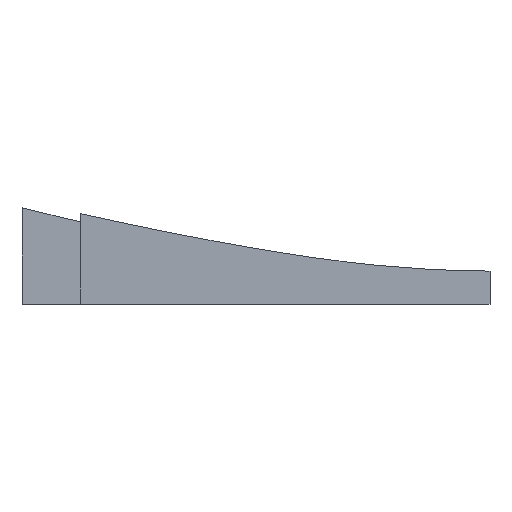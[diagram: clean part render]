
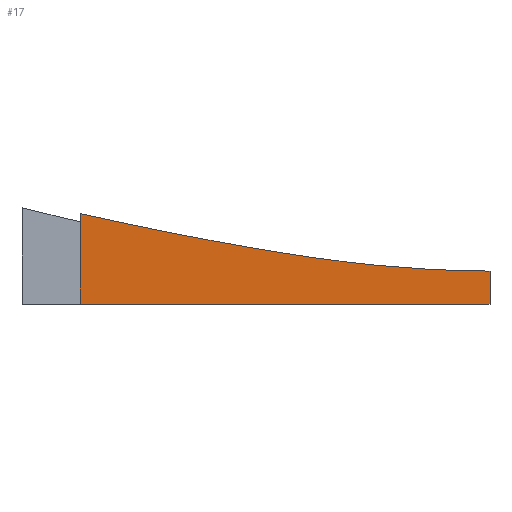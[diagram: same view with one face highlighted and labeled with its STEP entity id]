
A CAD part, left-side view. The second image highlights one B-rep face of the part: STEP entity #17.
In plain terms, the highlighted planar face has unit normal (-1, 0, 0).
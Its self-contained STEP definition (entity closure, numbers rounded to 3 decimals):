
#17 = ADVANCED_FACE('',(#18),#32,.F.);
#18 = FACE_BOUND('',#19,.F.);
#19 = EDGE_LOOP('',(#20,#53,#81,#107));
#20 = ORIENTED_EDGE('',*,*,#21,.F.);
#21 = EDGE_CURVE('',#22,#24,#26,.T.);
#22 = VERTEX_POINT('',#23);
#23 = CARTESIAN_POINT('',(-155.,-46.,0.));
#24 = VERTEX_POINT('',#25);
#25 = CARTESIAN_POINT('',(-155.,-46.,18.023));
#26 = SURFACE_CURVE('',#27,(#31,#42),.PCURVE_S1.);
#27 = LINE('',#28,#29);
#28 = CARTESIAN_POINT('',(-155.,-46.,-1.));
#29 = VECTOR('',#30,1.);
#30 = DIRECTION('',(0.,0.,1.));
#31 = PCURVE('',#32,#37);
#32 = PLANE('',#33);
#33 = AXIS2_PLACEMENT_3D('',#34,#35,#36);
#34 = CARTESIAN_POINT('',(-155.,-210.,0.));
#35 = DIRECTION('',(1.,0.,0.));
#36 = DIRECTION('',(0.,0.,1.));
#37 = DEFINITIONAL_REPRESENTATION('',(#38),#41);
#38 = B_SPLINE_CURVE_WITH_KNOTS('',1,(#39,#40),.UNSPECIFIED.,.F.,.F.,(2,
    2),(1.,50.485),.PIECEWISE_BEZIER_KNOTS.);
#39 = CARTESIAN_POINT('',(0.,-164.));
#40 = CARTESIAN_POINT('',(49.485,-164.));
#41 = ( GEOMETRIC_REPRESENTATION_CONTEXT(2) 
PARAMETRIC_REPRESENTATION_CONTEXT() REPRESENTATION_CONTEXT('2D SPACE',''
  ) );
#42 = PCURVE('',#43,#48);
#43 = PLANE('',#44);
#44 = AXIS2_PLACEMENT_3D('',#45,#46,#47);
#45 = CARTESIAN_POINT('',(-400.,-46.,-2.));
#46 = DIRECTION('',(0.,1.,0.));
#47 = DIRECTION('',(0.,0.,1.));
#48 = DEFINITIONAL_REPRESENTATION('',(#49),#52);
#49 = B_SPLINE_CURVE_WITH_KNOTS('',1,(#50,#51),.UNSPECIFIED.,.F.,.F.,(2,
    2),(1.,50.485),.PIECEWISE_BEZIER_KNOTS.);
#50 = CARTESIAN_POINT('',(2.,245.));
#51 = CARTESIAN_POINT('',(51.485,245.));
#52 = ( GEOMETRIC_REPRESENTATION_CONTEXT(2) 
PARAMETRIC_REPRESENTATION_CONTEXT() REPRESENTATION_CONTEXT('2D SPACE',''
  ) );
#53 = ORIENTED_EDGE('',*,*,#54,.T.);
#54 = EDGE_CURVE('',#22,#55,#57,.T.);
#55 = VERTEX_POINT('',#56);
#56 = CARTESIAN_POINT('',(-155.,178.,0.));
#57 = SURFACE_CURVE('',#58,(#62,#69),.PCURVE_S1.);
#58 = LINE('',#59,#60);
#59 = CARTESIAN_POINT('',(-155.,-210.,0.));
#60 = VECTOR('',#61,1.);
#61 = DIRECTION('',(0.,1.,0.));
#62 = PCURVE('',#32,#63);
#63 = DEFINITIONAL_REPRESENTATION('',(#64),#68);
#64 = LINE('',#65,#66);
#65 = CARTESIAN_POINT('',(0.,0.));
#66 = VECTOR('',#67,1.);
#67 = DIRECTION('',(0.,-1.));
#68 = ( GEOMETRIC_REPRESENTATION_CONTEXT(2) 
PARAMETRIC_REPRESENTATION_CONTEXT() REPRESENTATION_CONTEXT('2D SPACE',''
  ) );
#69 = PCURVE('',#70,#75);
#70 = PLANE('',#71);
#71 = AXIS2_PLACEMENT_3D('',#72,#73,#74);
#72 = CARTESIAN_POINT('',(-155.,-210.,0.));
#73 = DIRECTION('',(0.,0.,1.));
#74 = DIRECTION('',(1.,0.,0.));
#75 = DEFINITIONAL_REPRESENTATION('',(#76),#80);
#76 = LINE('',#77,#78);
#77 = CARTESIAN_POINT('',(0.,0.));
#78 = VECTOR('',#79,1.);
#79 = DIRECTION('',(0.,1.));
#80 = ( GEOMETRIC_REPRESENTATION_CONTEXT(2) 
PARAMETRIC_REPRESENTATION_CONTEXT() REPRESENTATION_CONTEXT('2D SPACE',''
  ) );
#81 = ORIENTED_EDGE('',*,*,#82,.T.);
#82 = EDGE_CURVE('',#55,#83,#85,.T.);
#83 = VERTEX_POINT('',#84);
#84 = CARTESIAN_POINT('',(-155.,178.,49.485));
#85 = SURFACE_CURVE('',#86,(#90,#96),.PCURVE_S1.);
#86 = LINE('',#87,#88);
#87 = CARTESIAN_POINT('',(-155.,178.,-0.5));
#88 = VECTOR('',#89,1.);
#89 = DIRECTION('',(0.,0.,1.));
#90 = PCURVE('',#32,#91);
#91 = DEFINITIONAL_REPRESENTATION('',(#92),#95);
#92 = B_SPLINE_CURVE_WITH_KNOTS('',1,(#93,#94),.UNSPECIFIED.,.F.,.F.,(2,
    2),(0.5,57.185),.PIECEWISE_BEZIER_KNOTS.);
#93 = CARTESIAN_POINT('',(0.,-388.));
#94 = CARTESIAN_POINT('',(56.685,-388.));
#95 = ( GEOMETRIC_REPRESENTATION_CONTEXT(2) 
PARAMETRIC_REPRESENTATION_CONTEXT() REPRESENTATION_CONTEXT('2D SPACE',''
  ) );
#96 = PCURVE('',#97,#102);
#97 = PLANE('',#98);
#98 = AXIS2_PLACEMENT_3D('',#99,#100,#101);
#99 = CARTESIAN_POINT('',(-165.,178.,-1.));
#100 = DIRECTION('',(0.,1.,0.));
#101 = DIRECTION('',(0.,0.,1.));
#102 = DEFINITIONAL_REPRESENTATION('',(#103),#106);
#103 = B_SPLINE_CURVE_WITH_KNOTS('',1,(#104,#105),.UNSPECIFIED.,.F.,.F.,
  (2,2),(0.5,57.185),.PIECEWISE_BEZIER_KNOTS.);
#104 = CARTESIAN_POINT('',(1.,10.));
#105 = CARTESIAN_POINT('',(57.685,10.));
#106 = ( GEOMETRIC_REPRESENTATION_CONTEXT(2) 
PARAMETRIC_REPRESENTATION_CONTEXT() REPRESENTATION_CONTEXT('2D SPACE',''
  ) );
#107 = ORIENTED_EDGE('',*,*,#108,.T.);
#108 = EDGE_CURVE('',#83,#24,#109,.T.);
#109 = SURFACE_CURVE('',#110,(#115,#122),.PCURVE_S1.);
#110 = HYPERBOLA('',#111,41.538,155.);
#111 = AXIS2_PLACEMENT_3D('',#112,#113,#114);
#112 = CARTESIAN_POINT('',(-155.,-46.,-23.515));
#113 = DIRECTION('',(1.,0.,0.));
#114 = DIRECTION('',(-0.,0.,1.));
#115 = PCURVE('',#32,#116);
#116 = DEFINITIONAL_REPRESENTATION('',(#117),#121);
#117 = ( BOUNDED_CURVE() B_SPLINE_CURVE(2,(#118,#119,#120),
.UNSPECIFIED.,.F.,.F.) B_SPLINE_CURVE_WITH_KNOTS((3,3),(-1.408,
1.096),.PIECEWISE_BEZIER_KNOTS.) CURVE() 
GEOMETRIC_REPRESENTATION_ITEM() RATIONAL_B_SPLINE_CURVE((1.,
1.892,1.)) REPRESENTATION_ITEM('') );
#118 = CARTESIAN_POINT('',(66.502,-462.));
#119 = CARTESIAN_POINT('',(-1.292,-176.85));
#120 = CARTESIAN_POINT('',(45.573,42.));
#121 = ( GEOMETRIC_REPRESENTATION_CONTEXT(2) 
PARAMETRIC_REPRESENTATION_CONTEXT() REPRESENTATION_CONTEXT('2D SPACE',''
  ) );
#122 = PCURVE('',#123,#128);
#123 = CONICAL_SURFACE('',#124,112.,1.309);
#124 = AXIS2_PLACEMENT_3D('',#125,#126,#127);
#125 = CARTESIAN_POINT('',(0.,-46.,6.5));
#126 = DIRECTION('',(0.,0.,1.));
#127 = DIRECTION('',(1.,0.,0.));
#128 = DEFINITIONAL_REPRESENTATION('',(#129),#153);
#129 = B_SPLINE_CURVE_WITH_KNOTS('',8,(#130,#131,#132,#133,#134,#135,
    #136,#137,#138,#139,#140,#141,#142,#143,#144,#145,#146,#147,#148,
    #149,#150,#151,#152),.UNSPECIFIED.,.F.,.F.,(9,7,7,9),(
    -1.408,-0.782,0.157,1.096),
  .UNSPECIFIED.);
#130 = CARTESIAN_POINT('',(2.05,60.002));
#131 = CARTESIAN_POINT('',(2.087,53.752));
#132 = CARTESIAN_POINT('',(2.126,48.132));
#133 = CARTESIAN_POINT('',(2.168,43.084));
#134 = CARTESIAN_POINT('',(2.213,38.557));
#135 = CARTESIAN_POINT('',(2.262,34.509));
#136 = CARTESIAN_POINT('',(2.314,30.903));
#137 = CARTESIAN_POINT('',(2.369,27.708));
#138 = CARTESIAN_POINT('',(2.517,20.681));
#139 = CARTESIAN_POINT('',(2.614,17.329));
#140 = CARTESIAN_POINT('',(2.718,14.754));
#141 = CARTESIAN_POINT('',(2.829,12.892));
#142 = CARTESIAN_POINT('',(2.945,11.702));
#143 = CARTESIAN_POINT('',(3.063,11.162));
#144 = CARTESIAN_POINT('',(3.182,11.267));
#145 = CARTESIAN_POINT('',(3.414,12.803));
#146 = CARTESIAN_POINT('',(3.527,14.234));
#147 = CARTESIAN_POINT('',(3.636,16.343));
#148 = CARTESIAN_POINT('',(3.738,19.165));
#149 = CARTESIAN_POINT('',(3.832,22.758));
#150 = CARTESIAN_POINT('',(3.919,27.199));
#151 = CARTESIAN_POINT('',(3.997,32.592));
#152 = CARTESIAN_POINT('',(4.067,39.073));
#153 = ( GEOMETRIC_REPRESENTATION_CONTEXT(2) 
PARAMETRIC_REPRESENTATION_CONTEXT() REPRESENTATION_CONTEXT('2D SPACE',''
  ) );
